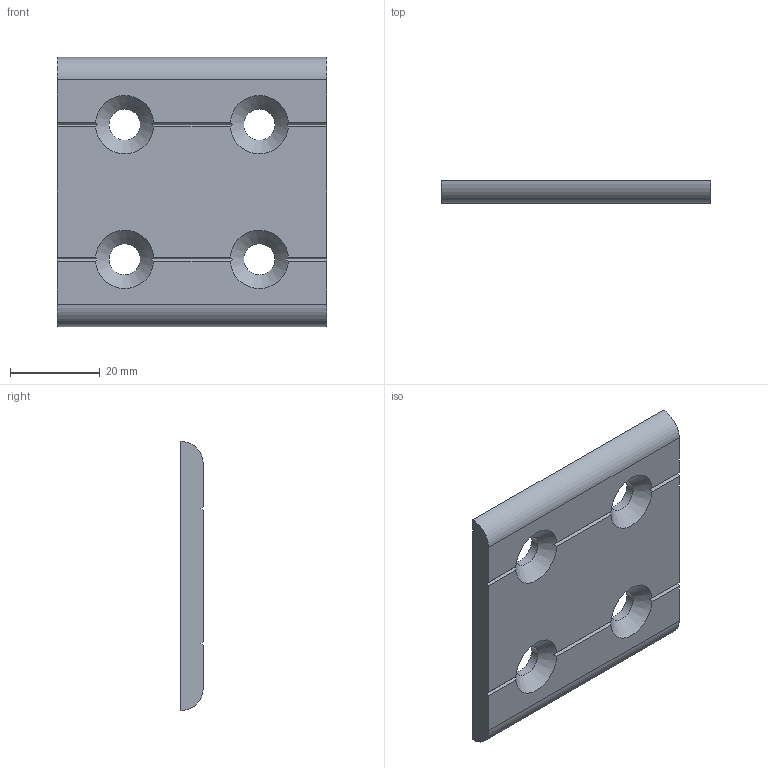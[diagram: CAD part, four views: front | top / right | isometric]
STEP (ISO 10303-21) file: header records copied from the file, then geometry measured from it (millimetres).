
FILE_DESCRIPTION(/* description */ ('Unknown'),/* implementation_level */ '2;1');
FILE_NAME(/* name */ 'AI6060-V',/* time_stamp */ '2026-09-17T11:48:04+08:00',/* author */ ('Unknown'),/* organization */ ('Unknown'),/* preprocessor_version */ 'ST-DEVELOPER v16.7',/* originating_system */ 'DEX',/* authorisation */ $);
FILE_SCHEMA (('AUTOMOTIVE_DESIGN {1 0 10303 214 3 1 1}'));
Length unit declared in the file: millimetre
Products named in the file (1): AI6060-V
Bounding box: 60 x 5 x 60 mm (x, y, z)
Volume: 16060.2 mm3; surface area: 8172.4 mm2
Topology: 1 solids, 1 shells, 28 faces, 86 edges, 56 vertices
Faces by surface type: plane 18, cylinder 6, cone 4
Full cylindrical faces by diameter (mm): 7 x4
Entity records: 1134 total; most frequent: CARTESIAN_POINT 203, ORIENTED_EDGE 148, DIRECTION 136, EDGE_CURVE 74, VERTEX_POINT 52, AXIS2_PLACEMENT_3D 49, EDGE_LOOP 40, FACE_BOUND 40
